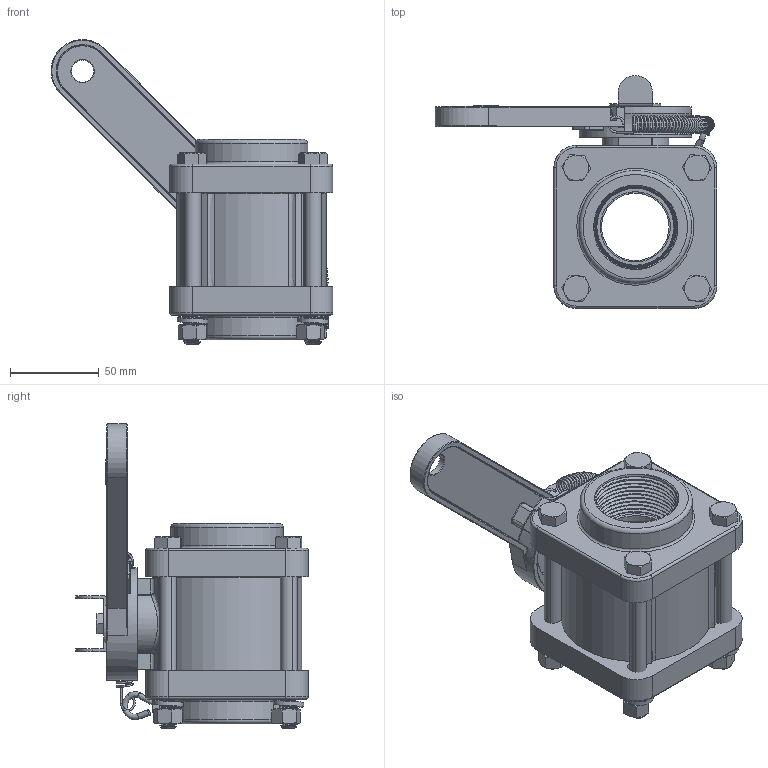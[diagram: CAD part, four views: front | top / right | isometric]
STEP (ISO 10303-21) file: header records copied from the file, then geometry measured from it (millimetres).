
FILE_DESCRIPTION(/* description */ ('Alibre Inc.'),/* implementation_level */ '2;1');
FILE_NAME(/* name */ 'export0',/* time_stamp */ '2017-09-30T10:48:11-04:00',/* author */ (''),/* organization */ (''),/* preprocessor_version */ 'ST-DEVELOPER v14',/* originating_system */ 'Alibre',/* authorisation */ '');
FILE_SCHEMA (('CONFIG_CONTROL_DESIGN'));
Length unit declared in the file: inch
Products named in the file (26): ID_1; ID_2; ID_3; ID_4; ID_5; ID_6; ID_7; ID_8; ID_9; ID_10; ID_11; ID_12; ID_13; ID_14; ID_15; ID_16; ID_17; ID_18; ID_19; ID_20; ID_21
Bounding box: 158.88 x 131.42 x 171.88 mm (x, y, z)
Volume: 574804 mm3; surface area: 193385.1 mm2
Topology: 63 solids, 63 shells, 1251 faces, 3152 edges, 1978 vertices
Faces by surface type: cylinder 440, plane 323, cone 198, bspline 187, torus 94, sphere 9
Full cylindrical faces by diameter (mm): 1.143 x2, 3.175 x2, 4.775 x1, 4.826 x3, 4.978 x1, 7.163 x1, 9.652 x8, 12.446 x1, 19.05 x4, 19.431 x1, 21.59 x1, 22.098 x1, 22.352 x2, 22.86 x1, 24.892 x1, 25.4 x1, 31.496 x2, 31.75 x1, 33.147 x1, 38.1 x2, 38.354 x1, 39.624 x2, 63.5 x4, 65.278 x1, 71.12 x2, 71.628 x2
Entity records: 56331 total; most frequent: CARTESIAN_POINT 36612, ORIENTED_EDGE 3722, DIRECTION 2869, EDGE_CURVE 1861, VERTEX_POINT 1232, AXIS2_PLACEMENT_3D 1228, FACE_BOUND 935, EDGE_LOOP 907
